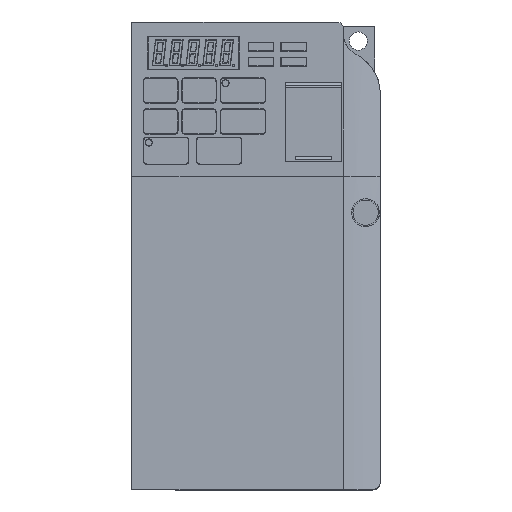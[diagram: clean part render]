
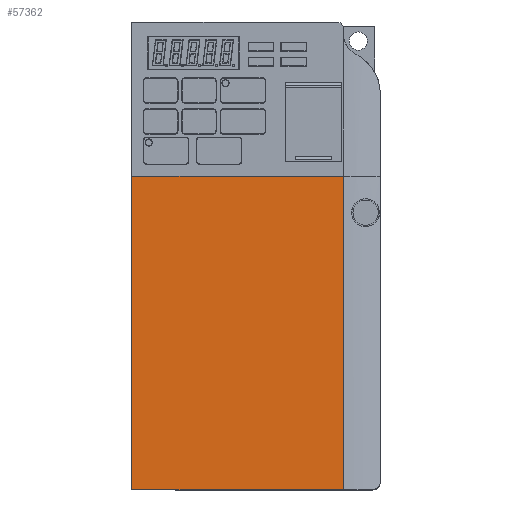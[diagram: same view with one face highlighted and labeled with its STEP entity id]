
A CAD part, top view. The second image highlights one B-rep face of the part: STEP entity #57362.
In plain terms, the highlighted planar face has unit normal (0, 0, 1).
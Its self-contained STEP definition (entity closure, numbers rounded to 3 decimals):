
#56852=DIRECTION('',(0.,-1.,0.));
#56853=VECTOR('',#56852,85.8);
#56854=CARTESIAN_POINT('',(-6.,10.,8.));
#56855=LINE('',#56854,#56853);
#56936=DIRECTION('',(-1.,0.,0.));
#56937=VECTOR('',#56936,58.);
#56938=CARTESIAN_POINT('',(-6.,-75.8,8.));
#56939=LINE('',#56938,#56937);
#56945=DIRECTION('',(0.,1.,0.));
#56946=VECTOR('',#56945,85.8);
#56947=CARTESIAN_POINT('',(-64.,-75.8,8.));
#56948=LINE('',#56947,#56946);
#56962=DIRECTION('',(1.,0.,0.));
#56963=VECTOR('',#56962,58.);
#56964=CARTESIAN_POINT('',(-64.,10.,8.));
#56965=LINE('',#56964,#56963);
#57129=CARTESIAN_POINT('',(-6.,-75.8,8.));
#57130=CARTESIAN_POINT('',(-64.,-75.8,8.));
#57131=VERTEX_POINT('',#57129);
#57132=VERTEX_POINT('',#57130);
#57133=CARTESIAN_POINT('',(-64.,10.,8.));
#57134=CARTESIAN_POINT('',(-6.,10.,8.));
#57135=VERTEX_POINT('',#57133);
#57136=VERTEX_POINT('',#57134);
#57351=CARTESIAN_POINT('',(-30.096,-32.779,8.));
#57352=DIRECTION('',(0.,0.,1.));
#57353=DIRECTION('',(1.,0.,0.));
#57354=AXIS2_PLACEMENT_3D('',#57351,#57352,#57353);
#57355=PLANE('',#57354);
#57356=ORIENTED_EDGE('',*,*,#57331,.T.);
#57357=ORIENTED_EDGE('',*,*,#57346,.T.);
#57358=ORIENTED_EDGE('',*,*,#57232,.T.);
#57359=ORIENTED_EDGE('',*,*,#57316,.T.);
#57360=EDGE_LOOP('',(#57356,#57357,#57358,#57359));
#57361=FACE_OUTER_BOUND('',#57360,.F.);
#57362=ADVANCED_FACE('',(#57361),#57355,.T.);
#57232=EDGE_CURVE('',#57136,#57131,#56855,.T.);
#57316=EDGE_CURVE('',#57131,#57132,#56939,.T.);
#57331=EDGE_CURVE('',#57132,#57135,#56948,.T.);
#57346=EDGE_CURVE('',#57135,#57136,#56965,.T.);
